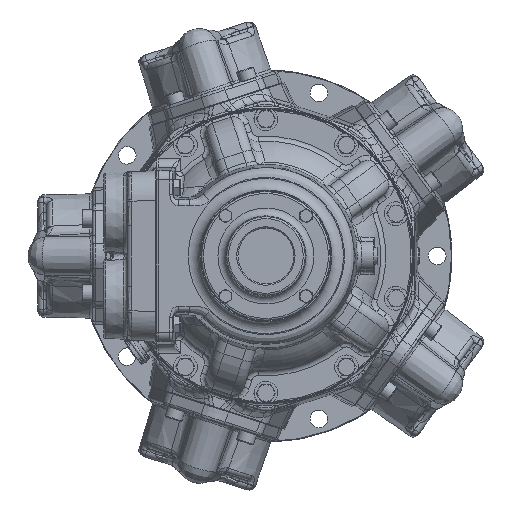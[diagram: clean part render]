
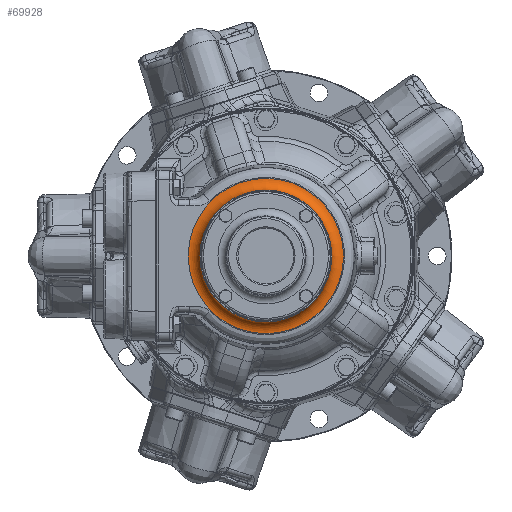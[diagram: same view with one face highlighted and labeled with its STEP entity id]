
A CAD part, left-side view. The second image highlights one B-rep face of the part: STEP entity #69928.
In plain terms, the highlighted toroidal (fillet/blend) face has major radius 79.318 mm and minor radius 12 mm.
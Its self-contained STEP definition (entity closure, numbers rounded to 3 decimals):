
#67 = AXIS2_PLACEMENT_3D ( 'NONE', #152615, #132773, #40161 ) ;
#7032 = EDGE_LOOP ( 'NONE', ( #72856 ) ) ;
#13712 = VERTEX_POINT ( 'NONE', #138433 ) ;
#17233 = FACE_OUTER_BOUND ( 'NONE', #7032, .T. ) ;
#20298 = DIRECTION ( 'NONE',  ( 0., 0., -1. ) ) ;
#21907 = CARTESIAN_POINT ( 'NONE',  ( -290.86, 0., -79.318 ) ) ;
#36819 = DIRECTION ( 'NONE',  ( 0., 0., -1. ) ) ;
#36870 = EDGE_CURVE ( 'NONE', #96090, #96090, #146958, .T. ) ;
#40161 = DIRECTION ( 'NONE',  ( 0., 0., -1. ) ) ;
#46940 = EDGE_CURVE ( 'NONE', #13712, #13712, #112709, .T. ) ;
#47476 = AXIS2_PLACEMENT_3D ( 'NONE', #125655, #111773, #36819 ) ;
#67770 = FACE_OUTER_BOUND ( 'NONE', #132698, .T. ) ;
#69928 = ADVANCED_FACE ( 'NONE', ( #17233, #67770 ), #114622, .F. ) ;
#72856 = ORIENTED_EDGE ( 'NONE', *, *, #46940, .T. ) ;
#96090 = VERTEX_POINT ( 'NONE', #21907 ) ;
#111773 = DIRECTION ( 'NONE',  ( 1., 0., 0. ) ) ;
#112709 = CIRCLE ( 'NONE', #47476, 67.322 ) ;
#114622 = TOROIDAL_SURFACE ( 'NONE', #67, 79.318, 12. ) ;
#119829 = CARTESIAN_POINT ( 'NONE',  ( -290.86, 0., 0. ) ) ;
#121442 = DIRECTION ( 'NONE',  ( -1., 0., 0. ) ) ;
#123568 = AXIS2_PLACEMENT_3D ( 'NONE', #119829, #121442, #20298 ) ;
#125655 = CARTESIAN_POINT ( 'NONE',  ( -302.546, 0., 0. ) ) ;
#129966 = ORIENTED_EDGE ( 'NONE', *, *, #36870, .T. ) ;
#132698 = EDGE_LOOP ( 'NONE', ( #129966 ) ) ;
#132773 = DIRECTION ( 'NONE',  ( 1., 0., 0. ) ) ;
#138433 = CARTESIAN_POINT ( 'NONE',  ( -302.546, 0., -67.322 ) ) ;
#146958 = CIRCLE ( 'NONE', #123568, 79.318 ) ;
#152615 = CARTESIAN_POINT ( 'NONE',  ( -302.86, 0., 0. ) ) ;
